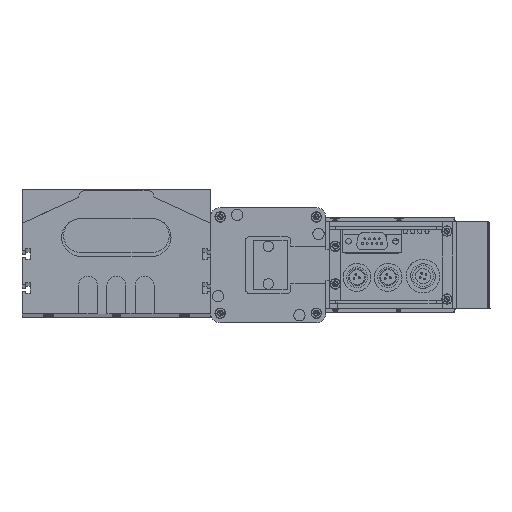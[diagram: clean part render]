
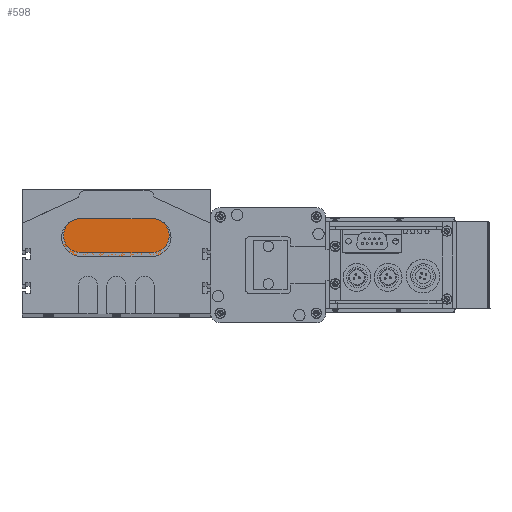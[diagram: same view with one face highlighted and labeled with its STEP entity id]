
A CAD part, top view. The second image highlights one B-rep face of the part: STEP entity #598.
In plain terms, the highlighted planar face has unit normal (0, 0, 1).
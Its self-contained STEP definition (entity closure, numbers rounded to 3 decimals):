
#598 = ADVANCED_FACE ( 'NONE', ( #28225 ), #28218, .T. ) ;
#647 = EDGE_CURVE ( 'NONE', #19835, #19750, #28326, .T. ) ;
#936 = ORIENTED_EDGE ( 'NONE', *, *, #19775, .T. ) ;
#8895 = VERTEX_POINT ( 'NONE', #31651 ) ;
#8917 = VERTEX_POINT ( 'NONE', #31655 ) ;
#19660 = VERTEX_POINT ( 'NONE', #34039 ) ;
#19750 = VERTEX_POINT ( 'NONE', #34176 ) ;
#19775 = EDGE_CURVE ( 'NONE', #19750, #8895, #34282, .T. ) ;
#19810 = EDGE_CURVE ( 'NONE', #8895, #8917, #34295, .T. ) ;
#19835 = VERTEX_POINT ( 'NONE', #34366 ) ;
#19836 = EDGE_CURVE ( 'NONE', #8917, #19660, #34433, .T. ) ;
#19909 = EDGE_LOOP ( 'NONE', ( #936, #19973, #19915, #21235, #21244 ) ) ;
#19915 = ORIENTED_EDGE ( 'NONE', *, *, #19836, .T. ) ;
#19934 = EDGE_CURVE ( 'NONE', #19660, #19835, #34556, .T. ) ;
#19973 = ORIENTED_EDGE ( 'NONE', *, *, #19810, .T. ) ;
#21235 = ORIENTED_EDGE ( 'NONE', *, *, #19934, .T. ) ;
#21244 = ORIENTED_EDGE ( 'NONE', *, *, #647, .T. ) ;
#28178 = AXIS2_PLACEMENT_3D ( 'NONE', #28210, #28209, #28207 ) ;
#28207 = DIRECTION ( 'NONE',  ( 1., 0., 0. ) ) ;
#28209 = DIRECTION ( 'NONE',  ( 0., 0., 1. ) ) ;
#28210 = CARTESIAN_POINT ( 'NONE',  ( 0., 10., 10. ) ) ;
#28218 = PLANE ( 'NONE',  #28178 ) ;
#28225 = FACE_OUTER_BOUND ( 'NONE', #19909, .T. ) ;
#28308 = DIRECTION ( 'NONE',  ( -1., 0., 0. ) ) ;
#28309 = VECTOR ( 'NONE', #28308, 1000. ) ;
#28325 = CARTESIAN_POINT ( 'NONE',  ( 0., 20., 10. ) ) ;
#28326 = LINE ( 'NONE', #28325, #28309 ) ;
#31651 = CARTESIAN_POINT ( 'NONE',  ( -10., 10., 10. ) ) ;
#31655 = CARTESIAN_POINT ( 'NONE',  ( 0., 0., 10. ) ) ;
#34039 = CARTESIAN_POINT ( 'NONE',  ( 38., 0., 10. ) ) ;
#34176 = CARTESIAN_POINT ( 'NONE',  ( 0., 20., 10. ) ) ;
#34229 = CARTESIAN_POINT ( 'NONE',  ( 0., 10., 10. ) ) ;
#34267 = DIRECTION ( 'NONE',  ( 1., 0., 0. ) ) ;
#34268 = DIRECTION ( 'NONE',  ( 0., 0., 1. ) ) ;
#34282 = CIRCLE ( 'NONE', #34286, 10. ) ;
#34286 = AXIS2_PLACEMENT_3D ( 'NONE', #34229, #34268, #34267 ) ;
#34295 = CIRCLE ( 'NONE', #34341, 10. ) ;
#34334 = DIRECTION ( 'NONE',  ( 1., 0., 0. ) ) ;
#34335 = DIRECTION ( 'NONE',  ( 0., 0., 1. ) ) ;
#34336 = CARTESIAN_POINT ( 'NONE',  ( 0., 10., 10. ) ) ;
#34341 = AXIS2_PLACEMENT_3D ( 'NONE', #34336, #34335, #34334 ) ;
#34366 = CARTESIAN_POINT ( 'NONE',  ( 38., 20., 10. ) ) ;
#34416 = DIRECTION ( 'NONE',  ( 1., 0., 0. ) ) ;
#34417 = VECTOR ( 'NONE', #34416, 1000. ) ;
#34418 = CARTESIAN_POINT ( 'NONE',  ( 0., 0., 10. ) ) ;
#34433 = LINE ( 'NONE', #34418, #34417 ) ;
#34556 = CIRCLE ( 'NONE', #34607, 10. ) ;
#34587 = DIRECTION ( 'NONE',  ( -1., 0., 0. ) ) ;
#34592 = CARTESIAN_POINT ( 'NONE',  ( 38., 10., 10. ) ) ;
#34596 = DIRECTION ( 'NONE',  ( 0., 0., 1. ) ) ;
#34607 = AXIS2_PLACEMENT_3D ( 'NONE', #34592, #34596, #34587 ) ;
